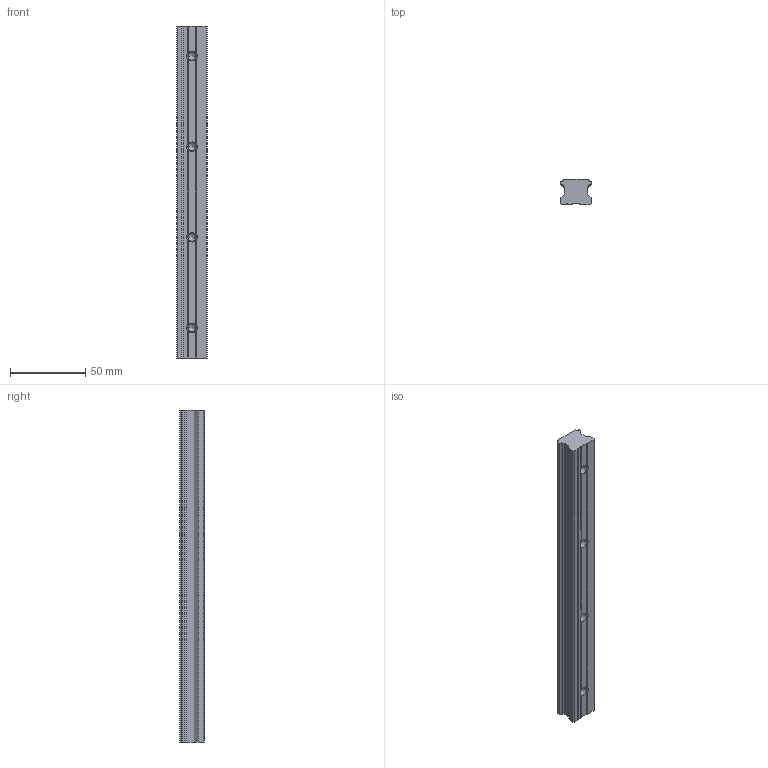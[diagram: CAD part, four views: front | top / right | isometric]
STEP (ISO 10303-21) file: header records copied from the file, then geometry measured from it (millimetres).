
FILE_DESCRIPTION (( 'STEP AP203' ), '1' );
FILE_NAME ('SBI 20 - B.STEP', '2014-08-05T09:29:58', ( 'star' ), ( '' ), 'SwSTEP 2.0', 'SolidWorks 2013', '' );
FILE_SCHEMA (( 'CONFIG_CONTROL_DESIGN' ));
Length unit declared in the file: millimetre
Products named in the file (1): SBI 20 - B
Bounding box: 20 x 16.5 x 220 mm (x, y, z)
Volume: 63050.6 mm3; surface area: 17891 mm2
Topology: 1 solids, 1 shells, 96 faces, 262 edges, 160 vertices
Faces by surface type: plane 39, cylinder 33, cone 24
Entity records: 3121 total; most frequent: CARTESIAN_POINT 671, ORIENTED_EDGE 508, DIRECTION 490, EDGE_CURVE 254, AXIS2_PLACEMENT_3D 171, VERTEX_POINT 160, VECTOR 148, LINE 148
